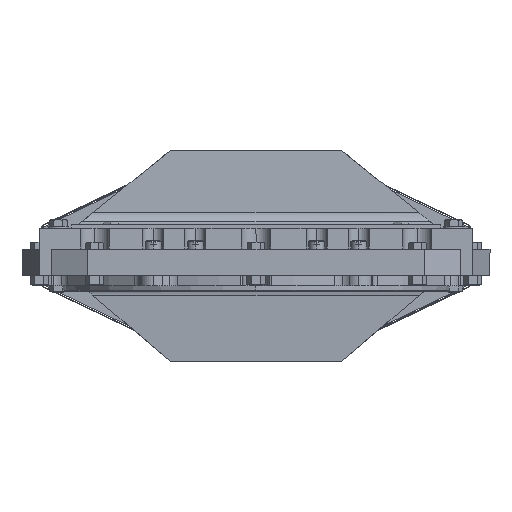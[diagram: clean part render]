
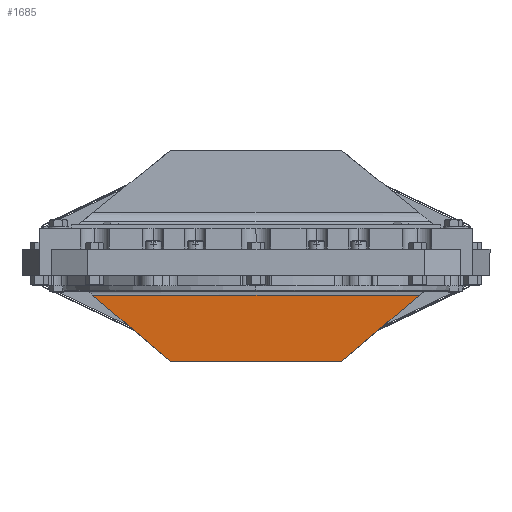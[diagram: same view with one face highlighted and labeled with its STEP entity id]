
A CAD part, left-side view. The second image highlights one B-rep face of the part: STEP entity #1685.
In plain terms, the highlighted planar face has unit normal (-0.999, 0, -0.042).
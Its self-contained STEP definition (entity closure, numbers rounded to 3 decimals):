
#1685=ADVANCED_FACE('',(#7230),#7231,.T.);
#7230=FACE_OUTER_BOUND('',#15865,.T.);
#7231=PLANE('',#15866);
#15865=EDGE_LOOP('',(#33872,#33873,#33874,#33875));
#15866=AXIS2_PLACEMENT_3D('',#33876,#33877,#33878);
#33872=ORIENTED_EDGE('',*,*,#55208,.F.);
#33873=ORIENTED_EDGE('',*,*,#58522,.T.);
#33874=ORIENTED_EDGE('',*,*,#58523,.T.);
#33875=ORIENTED_EDGE('',*,*,#58524,.T.);
#33876=CARTESIAN_POINT('',(358.5,335.556,-105.361));
#33877=DIRECTION('',(-0.999,0.,-0.042));
#33878=DIRECTION('',(-0.042,0.,0.999));
#55208=EDGE_CURVE('',#67631,#67633,#67634,.T.);
#58522=EDGE_CURVE('',#67631,#73080,#73081,.T.);
#58523=EDGE_CURVE('',#73080,#73082,#73083,.T.);
#58524=EDGE_CURVE('',#73082,#67633,#73084,.T.);
#67631=VERTEX_POINT('',#85185);
#67633=VERTEX_POINT('',#85187);
#67634=LINE('',#85188,#85189);
#73080=VERTEX_POINT('',#93770);
#73081=LINE('',#93771,#93772);
#73082=VERTEX_POINT('',#93773);
#73083=LINE('',#93774,#93775);
#73084=LINE('',#93776,#93777);
#85185=CARTESIAN_POINT('',(356.802,583.104,-64.775));
#85187=CARTESIAN_POINT('',(356.802,88.007,-64.775));
#85188=CARTESIAN_POINT('',(356.802,335.556,-64.775));
#85189=VECTOR('',#116121,10.);
#93770=CARTESIAN_POINT('',(361.,465.556,-165.111));
#93771=CARTESIAN_POINT('',(360.575,477.453,-154.956));
#93772=VECTOR('',#121828,10.);
#93773=CARTESIAN_POINT('',(361.,205.556,-165.111));
#93774=CARTESIAN_POINT('',(361.,335.556,-165.111));
#93775=VECTOR('',#121829,10.);
#93776=CARTESIAN_POINT('',(360.575,193.658,-154.956));
#93777=VECTOR('',#121830,10.);
#116121=DIRECTION('',(0.,-1.,0.));
#121828=DIRECTION('',(0.027,-0.76,-0.649));
#121829=DIRECTION('',(0.,-1.,0.));
#121830=DIRECTION('',(-0.027,-0.76,0.649));
